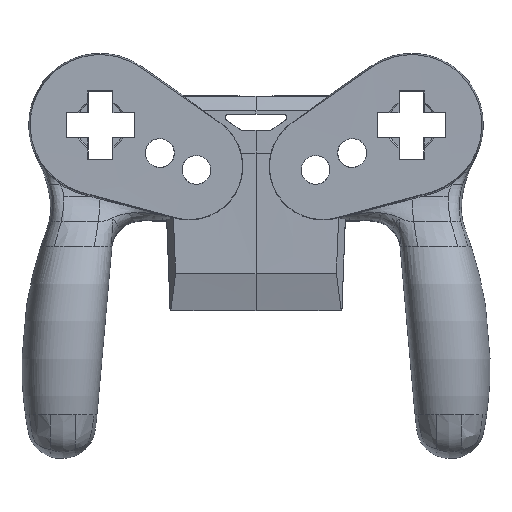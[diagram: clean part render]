
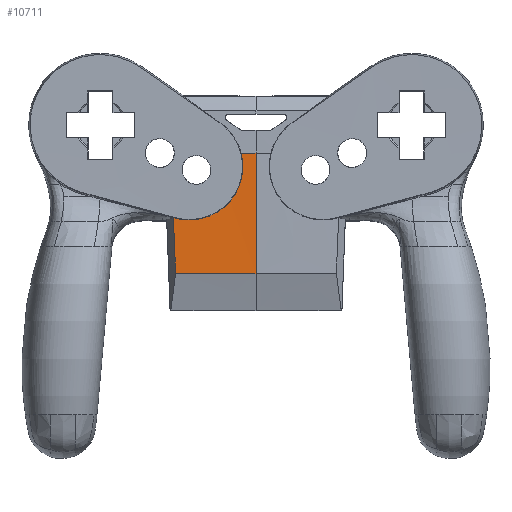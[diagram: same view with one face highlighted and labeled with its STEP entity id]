
A CAD part, top view. The second image highlights one B-rep face of the part: STEP entity #10711.
In plain terms, the highlighted free-form (B-spline) face has degree [7, 3] with [8, 5] control points.
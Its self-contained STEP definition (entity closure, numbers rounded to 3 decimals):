
#9285=CARTESIAN_POINT('',(0.009,-10.67,5.841));
#9286=VERTEX_POINT('',#9285);
#9292=CARTESIAN_POINT('',(-25.794,-10.524,6.038));
#9293=VERTEX_POINT('',#9292);
#9294=CARTESIAN_POINT('',(-25.794,-10.524,6.038));
#9295=CARTESIAN_POINT('',(-25.385,-10.529,6.034));
#9296=CARTESIAN_POINT('',(-24.156,-10.54,6.024));
#9297=CARTESIAN_POINT('',(-21.699,-10.556,6.002));
#9298=CARTESIAN_POINT('',(-18.422,-10.566,5.974));
#9299=CARTESIAN_POINT('',(-14.736,-10.574,5.941));
#9300=CARTESIAN_POINT('',(-11.049,-10.591,5.907));
#9301=CARTESIAN_POINT('',(-7.363,-10.624,5.873));
#9302=CARTESIAN_POINT('',(-4.087,-10.653,5.851));
#9303=CARTESIAN_POINT('',(-1.629,-10.668,5.842));
#9304=CARTESIAN_POINT('',(-0.4,-10.67,5.841));
#9305=CARTESIAN_POINT('',(0.009,-10.67,5.841));
#9306=B_SPLINE_CURVE_WITH_KNOTS('',3,(#9294,#9295,#9296,#9297,#9298,#9299,#9300,#9301,#9302,#9303,#9304,#9305),.UNSPECIFIED.,.F.,.U.,(4,1,1,1,1,1,1,1,1,4),(0.0,0.048,0.143,0.286,0.429,0.571,0.714,0.857,0.952,1.0),.UNSPECIFIED.);
#9307=EDGE_CURVE('',#9293,#9286,#9306,.T.);
#10526=CARTESIAN_POINT('',(-4.763,28.018,5.821));
#10527=VERTEX_POINT('',#10526);
#10528=CARTESIAN_POINT('',(-21.595,6.531,5.894));
#10529=VERTEX_POINT('',#10528);
#10530=CARTESIAN_POINT('',(-4.763,28.018,5.821));
#10531=CARTESIAN_POINT('',(-4.638,27.535,5.822));
#10532=CARTESIAN_POINT('',(-4.327,26.069,5.826));
#10533=CARTESIAN_POINT('',(-4.09,23.054,5.829));
#10534=CARTESIAN_POINT('',(-4.655,19.059,5.829));
#10535=CARTESIAN_POINT('',(-6.434,14.876,5.827));
#10536=CARTESIAN_POINT('',(-9.236,11.299,5.827));
#10537=CARTESIAN_POINT('',(-12.87,8.57,5.84));
#10538=CARTESIAN_POINT('',(-16.614,7.065,5.863));
#10539=CARTESIAN_POINT('',(-19.598,6.574,5.883));
#10540=CARTESIAN_POINT('',(-21.096,6.526,5.891));
#10541=CARTESIAN_POINT('',(-21.595,6.531,5.894));
#10542=B_SPLINE_CURVE_WITH_KNOTS('',3,(#10530,#10531,#10532,#10533,#10534,#10535,#10536,#10537,#10538,#10539,#10540,#10541),.UNSPECIFIED.,.F.,.U.,(4,1,1,1,1,1,1,1,1,4),(0.0,0.048,0.143,0.286,0.429,0.571,0.714,0.857,0.952,1.0),.UNSPECIFIED.);
#10543=EDGE_CURVE('',#10527,#10529,#10542,.T.);
#10616=CARTESIAN_POINT('',(0.009,-16.29,5.841));
#10617=CARTESIAN_POINT('',(0.009,-9.961,5.841));
#10618=CARTESIAN_POINT('',(0.009,-3.631,5.841));
#10619=CARTESIAN_POINT('',(0.009,2.699,5.841));
#10620=CARTESIAN_POINT('',(0.009,9.029,5.841));
#10621=CARTESIAN_POINT('',(0.009,15.358,5.841));
#10622=CARTESIAN_POINT('',(0.009,21.688,5.841));
#10623=CARTESIAN_POINT('',(0.009,28.018,5.842));
#10624=CARTESIAN_POINT('',(-3.994,-16.29,5.841));
#10625=CARTESIAN_POINT('',(-3.994,-9.961,5.841));
#10626=CARTESIAN_POINT('',(-3.994,-3.631,5.841));
#10627=CARTESIAN_POINT('',(-3.994,2.699,5.841));
#10628=CARTESIAN_POINT('',(-3.994,9.029,5.841));
#10629=CARTESIAN_POINT('',(-3.994,15.358,5.841));
#10630=CARTESIAN_POINT('',(-3.994,21.688,5.841));
#10631=CARTESIAN_POINT('',(-3.994,28.018,5.842));
#10632=CARTESIAN_POINT('',(-14.039,-16.29,5.971));
#10633=CARTESIAN_POINT('',(-14.039,-9.961,5.932));
#10634=CARTESIAN_POINT('',(-14.039,-3.631,5.894));
#10635=CARTESIAN_POINT('',(-14.039,2.699,5.855));
#10636=CARTESIAN_POINT('',(-14.039,9.029,5.817));
#10637=CARTESIAN_POINT('',(-14.039,15.358,5.779));
#10638=CARTESIAN_POINT('',(-14.039,21.688,5.74));
#10639=CARTESIAN_POINT('',(-14.039,28.018,5.702));
#10640=CARTESIAN_POINT('',(-24.085,-16.29,6.059));
#10641=CARTESIAN_POINT('',(-24.085,-9.961,6.02));
#10642=CARTESIAN_POINT('',(-24.085,-3.631,5.981));
#10643=CARTESIAN_POINT('',(-24.085,2.699,5.941));
#10644=CARTESIAN_POINT('',(-24.085,9.029,5.9));
#10645=CARTESIAN_POINT('',(-24.085,15.358,5.86));
#10646=CARTESIAN_POINT('',(-24.085,21.688,5.819));
#10647=CARTESIAN_POINT('',(-24.085,28.018,5.779));
#10648=CARTESIAN_POINT('',(-30.127,-16.29,6.124));
#10649=CARTESIAN_POINT('',(-30.127,-9.961,6.069));
#10650=CARTESIAN_POINT('',(-30.127,-3.631,6.017));
#10651=CARTESIAN_POINT('',(-30.127,2.699,5.966));
#10652=CARTESIAN_POINT('',(-30.127,9.029,5.916));
#10653=CARTESIAN_POINT('',(-30.127,15.358,5.867));
#10654=CARTESIAN_POINT('',(-30.127,21.688,5.817));
#10655=CARTESIAN_POINT('',(-30.127,28.018,5.766));
#10656=B_SPLINE_SURFACE_WITH_KNOTS('',7,3,((#10616,#10624,#10632,#10640,#10648),(#10617,#10625,#10633,#10641,#10649),(#10618,#10626,#10634,#10642,#10650),(#10619,#10627,#10635,#10643,#10651),(#10620,#10628,#10636,#10644,#10652),(#10621,#10629,#10637,#10645,#10653),(#10622,#10630,#10638,#10646,#10654),(#10623,#10631,#10639,#10647,#10655)),.UNSPECIFIED.,.F.,.F.,.U.,(8,8),(4,1,4),(0.0,0.713),(0.,0.545,1.369),.UNSPECIFIED.);
#10657=CARTESIAN_POINT('',(-26.541,7.263,5.916));
#10658=VERTEX_POINT('',#10657);
#10659=CARTESIAN_POINT('',(-26.541,7.263,5.916));
#10660=CARTESIAN_POINT('',(-25.794,-10.524,6.038));
#10661=QUASI_UNIFORM_CURVE('',1,(#10659,#10660),.UNSPECIFIED.,.F.,.U.);
#10662=EDGE_CURVE('',#10658,#9293,#10661,.T.);
#10663=ORIENTED_EDGE('',*,*,#10662,.T.);
#10664=ORIENTED_EDGE('',*,*,#9307,.T.);
#10665=CARTESIAN_POINT('',(0.009,28.018,5.842));
#10666=VERTEX_POINT('',#10665);
#10667=CARTESIAN_POINT('',(0.009,-10.67,5.841));
#10668=CARTESIAN_POINT('',(0.009,-5.143,5.841));
#10669=CARTESIAN_POINT('',(0.009,0.384,5.841));
#10670=CARTESIAN_POINT('',(0.009,5.911,5.841));
#10671=CARTESIAN_POINT('',(0.009,11.437,5.841));
#10672=CARTESIAN_POINT('',(0.009,16.964,5.841));
#10673=CARTESIAN_POINT('',(0.009,22.491,5.841));
#10674=CARTESIAN_POINT('',(0.009,28.018,5.842));
#10675=B_SPLINE_CURVE_WITH_KNOTS('',7,(#10667,#10668,#10669,#10670,#10671,#10672,#10673,#10674),.UNSPECIFIED.,.F.,.U.,(8,8),(0.09,0.713),.UNSPECIFIED.);
#10676=EDGE_CURVE('',#9286,#10666,#10675,.T.);
#10677=ORIENTED_EDGE('',*,*,#10676,.T.);
#10678=CARTESIAN_POINT('',(0.009,28.018,5.842));
#10679=CARTESIAN_POINT('',(-1.581,28.018,5.842));
#10680=CARTESIAN_POINT('',(-3.172,28.018,5.833));
#10681=CARTESIAN_POINT('',(-4.763,28.018,5.821));
#10682=B_SPLINE_CURVE_WITH_KNOTS('',3,(#10678,#10679,#10680,#10681),.UNSPECIFIED.,.F.,.U.,(4,4),(0.,0.217),.UNSPECIFIED.);
#10683=EDGE_CURVE('',#10666,#10527,#10682,.T.);
#10684=ORIENTED_EDGE('',*,*,#10683,.T.);
#10685=ORIENTED_EDGE('',*,*,#10543,.T.);
#10686=CARTESIAN_POINT('',(-21.627,6.532,5.894));
#10687=VERTEX_POINT('',#10686);
#10688=CARTESIAN_POINT('',(-21.595,6.531,5.894));
#10689=CARTESIAN_POINT('',(-21.627,6.532,5.894));
#10690=QUASI_UNIFORM_CURVE('',1,(#10688,#10689),.UNSPECIFIED.,.F.,.U.);
#10691=EDGE_CURVE('',#10529,#10687,#10690,.T.);
#10692=ORIENTED_EDGE('',*,*,#10691,.T.);
#10693=CARTESIAN_POINT('',(-25.905,7.104,5.914));
#10694=VERTEX_POINT('',#10693);
#10695=CARTESIAN_POINT('',(-21.627,6.532,5.894));
#10696=CARTESIAN_POINT('',(-22.107,6.538,5.897));
#10697=CARTESIAN_POINT('',(-23.065,6.589,5.902));
#10698=CARTESIAN_POINT('',(-24.501,6.788,5.909));
#10699=CARTESIAN_POINT('',(-25.439,6.99,5.912));
#10700=CARTESIAN_POINT('',(-25.905,7.104,5.914));
#10701=B_SPLINE_CURVE_WITH_KNOTS('',3,(#10695,#10696,#10697,#10698,#10699,#10700),.UNSPECIFIED.,.F.,.U.,(4,1,1,4),(0.0,0.333,0.667,1.0),.UNSPECIFIED.);
#10702=EDGE_CURVE('',#10687,#10694,#10701,.T.);
#10703=ORIENTED_EDGE('',*,*,#10702,.T.);
#10704=CARTESIAN_POINT('',(-25.905,7.104,5.914));
#10705=CARTESIAN_POINT('',(-26.541,7.263,5.916));
#10706=QUASI_UNIFORM_CURVE('',1,(#10704,#10705),.UNSPECIFIED.,.F.,.U.);
#10707=EDGE_CURVE('',#10694,#10658,#10706,.T.);
#10708=ORIENTED_EDGE('',*,*,#10707,.T.);
#10709=EDGE_LOOP('',(#10663,#10664,#10677,#10684,#10685,#10692,#10703,#10708));
#10710=FACE_OUTER_BOUND('',#10709,.T.);
#10711=ADVANCED_FACE('',(#10710),#10656,.T.);
